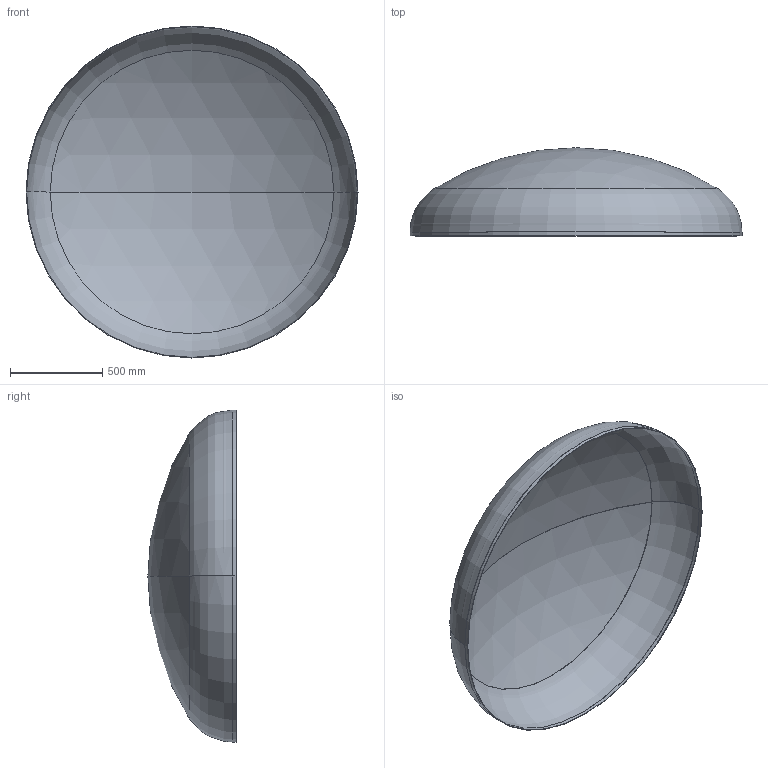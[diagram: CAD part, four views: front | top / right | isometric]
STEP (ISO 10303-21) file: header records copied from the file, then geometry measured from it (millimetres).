
FILE_DESCRIPTION (( 'STEP AP203' ), '1' );
FILE_NAME ('DIN 28013 Korbbogenform_-_Boden DIN 28013 - 1800 x 20 - I - s=3.step', '2016-07-01T12:13:21', ( '' ), ( '' ), 'SwSTEP 2.0', 'SolidWorks 2013', '' );
FILE_SCHEMA (( 'CONFIG_CONTROL_DESIGN' ));
Length unit declared in the file: millimetre
Products named in the file (1): DIN 28013 Korbbogenform_-_Boden DIN 28013 - 1800 x 20 - I - s=3
Bounding box: 1800 x 477.94 x 1800 mm (x, y, z)
Volume: 10873342.8 mm3; surface area: 7265847.4 mm2
Topology: 1 solids, 1 shells, 13 faces, 24 edges, 14 vertices
Faces by surface type: torus 4, cylinder 4, sphere 4, plane 1
Entity records: 407 total; most frequent: DIRECTION 72, CARTESIAN_POINT 52, ORIENTED_EDGE 48, AXIS2_PLACEMENT_3D 34, EDGE_CURVE 24, CIRCLE 20, VERTEX_POINT 14, EDGE_LOOP 14
